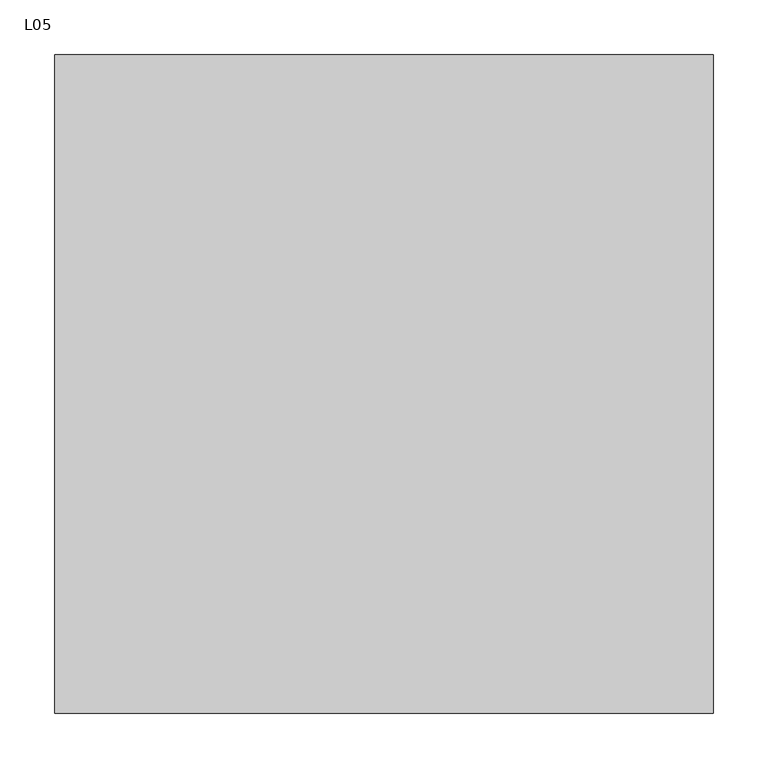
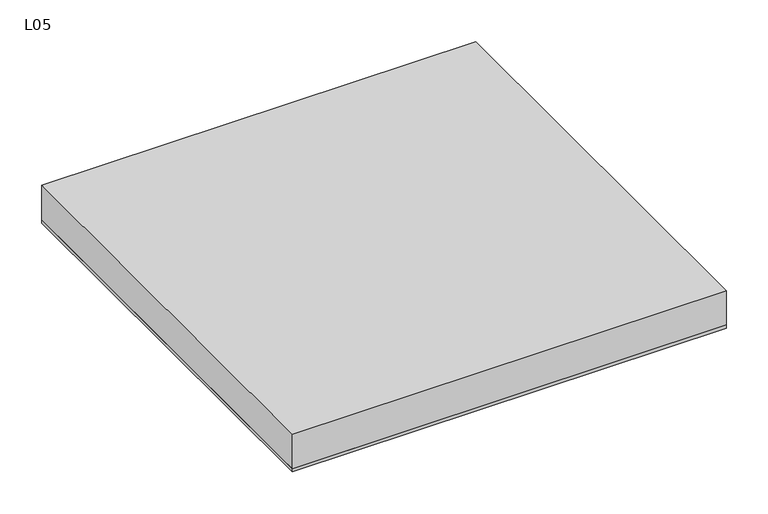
"""IFC4 building model written with IfcOpenShell, lengths in millimetres: light fixture geometry, ZYR_06.02.01 Pantalla 60X60 : L05."""

from ifc_helpers import new_model, si_unit, frame, origin, origin_with_axes, place, context, project, spatial, polyline, outline, extrude, source, transform, mapped, element, save


def l05_35ffa1e8(model_context):
    return source(origin(), model_context, "Body", "SweptSolid", [
        extrude(outline(polyline([(300.0, -300.0), (-300.0, -300.0), (-300.0, 300.0), (300.0, 300.0), (300.0, -300.0)])), origin_with_axes(), (0.0, 0.0, 1.0), 50.0),
        extrude(outline(polyline([(300.0, -300.0), (-300.0, -300.0), (-300.0, 300.0), (300.0, 300.0), (300.0, -300.0)])), frame((0.0, 0.0, -5.0), z_axis=(0.0, 0.0, 1.0), x_axis=(1.0, 0.0, 0.0)), (0.0, 0.0, 1.0), 5.0),
    ])


if __name__ == "__main__":
    model = new_model("IFC4")
    model_context = context("Model", 3, world=origin())
    ifc_project = project(units=[si_unit("LENGTHUNIT", "METRE", prefix="MILLI")], contexts=[model_context])
    site = spatial("IfcSite", under=ifc_project)
    building = spatial("IfcBuilding", under=site)
    placement = place(None, origin())
    l05_shape = l05_35ffa1e8(model_context)
    element("IfcLightFixture", 1, ObjectType="ZYR_06.02.01 Pantalla 60X60 : L05", at=placement, inside=building, context=model_context, shape_type="MappedRepresentation", body=[
        mapped(l05_shape, transform((0.0, 0.0, 0.0), x_axis=(1.0, 0.0, 0.0), y_axis=(0.0, 1.0, 0.0), z_axis=(0.0, 0.0, 1.0))),
    ])
    save(model, "model.ifc")
